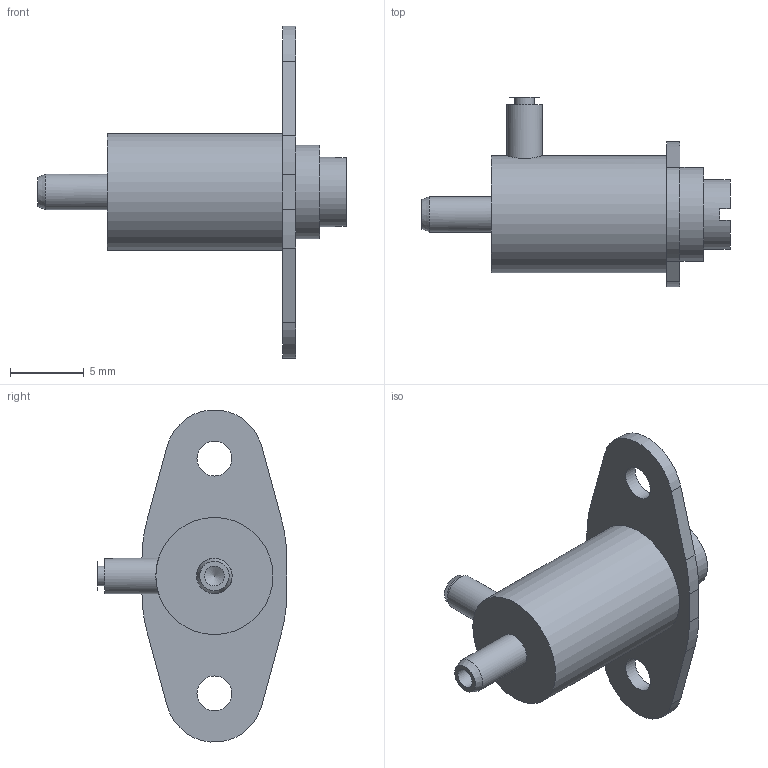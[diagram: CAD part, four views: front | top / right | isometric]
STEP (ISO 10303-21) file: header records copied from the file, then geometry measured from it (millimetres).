
FILE_DESCRIPTION(/* description */ ('SolidWorks IGES file using NURBS representation for surfaces '),/* implementation_level */ '2;1');
FILE_NAME(/* name */ 'K:\Normteile INVENTOR\Air-Logic\Needle Valves\F-2822-21.IGS.ipt.stp',/* time_stamp */ '2020-05-27T10:40:46+02:00',/* author */ ('amarsh'),/* organization */ (''),/* preprocessor_version */ 'ST-DEVELOPER v18',/* originating_system */ 'Autodesk Inventor 2020',/* authorisation */ '');
FILE_SCHEMA (('AUTOMOTIVE_DESIGN { 1 0 10303 214 3 1 1 }'));
Length unit declared in the file: millimetre
Products named in the file (1): F-2822-21.IGS
Bounding box: 20.85 x 12.83 x 22.45 mm (x, y, z)
Volume: 832.2 mm3; surface area: 898.6 mm2
Topology: 2 solids, 2 shells, 37 faces, 106 edges, 77 vertices
Faces by surface type: plane 18, cylinder 15, cone 4
Full cylindrical faces by diameter (mm): 1.35 x2, 2.36 x2, 2.39 x2, 4.7 x1, 6.35 x1, 7.92 x1
Entity records: 1347 total; most frequent: CARTESIAN_POINT 254, DIRECTION 235, ORIENTED_EDGE 208, EDGE_CURVE 104, AXIS2_PLACEMENT_3D 95, VERTEX_POINT 77, CIRCLE 57, EDGE_LOOP 47
